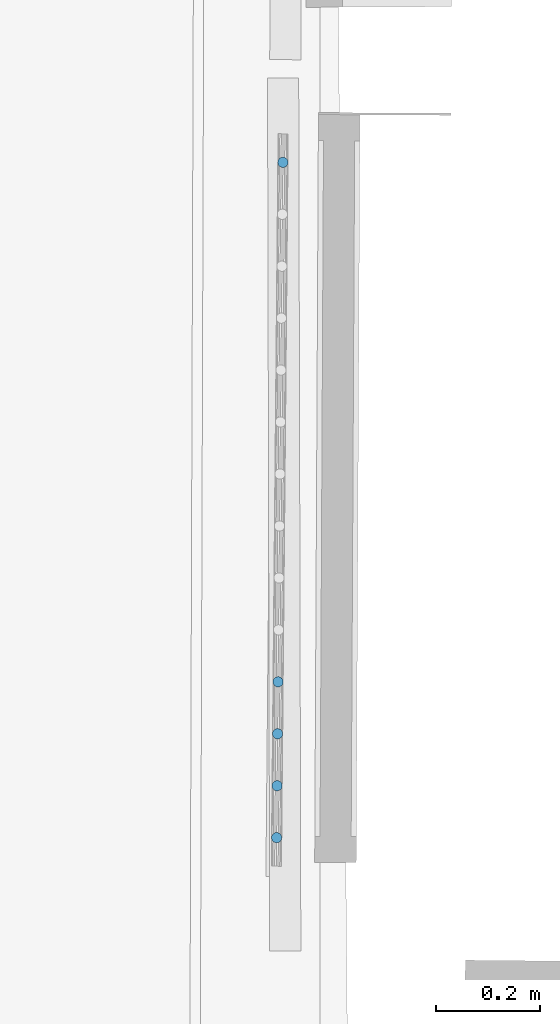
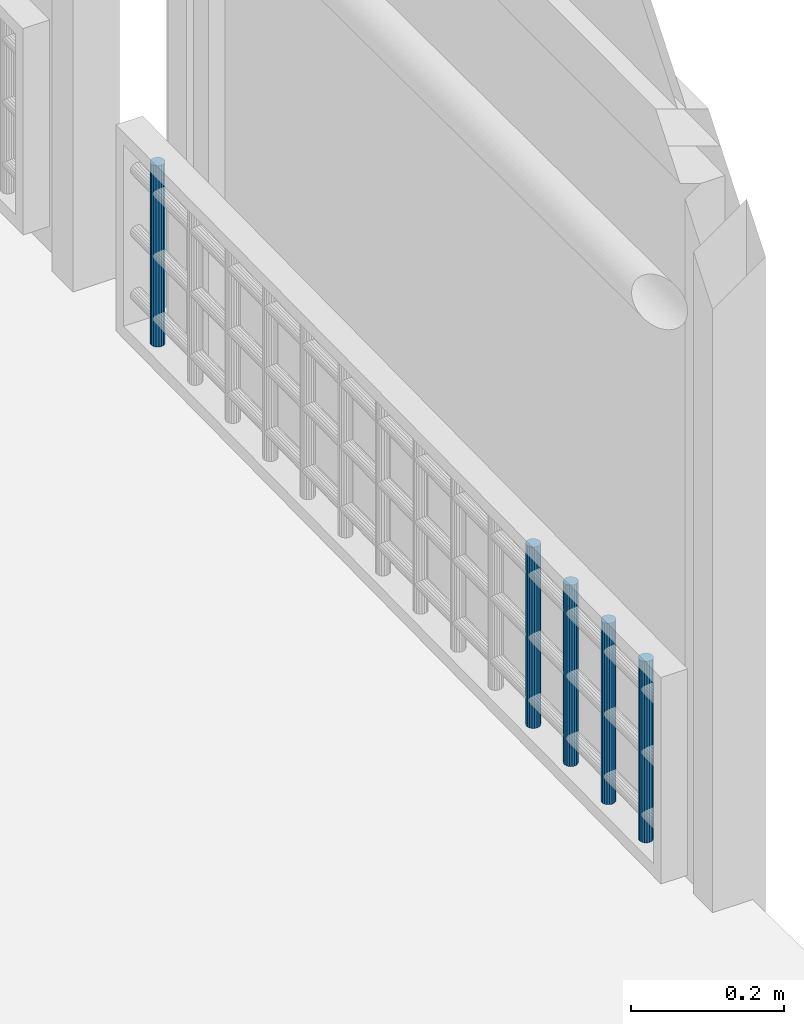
# One storey, part 33 of 72: 5 members, 1 element without a shape of its own.
"""IFC2X3 building model written with IfcOpenShell, lengths in centimetres."""

from ifc_helpers import new_model, entity, si_unit, converted_unit, direction, frame, origin, origin_with_axes, place, context, subcontext, project, spatial, faceted_brep, material, type_object, element, aggregate, save


model = new_model("IFC2X3")

# Units and contexts
model_context = context("Model", 3, precision=0.0001, world=origin(), true_north=direction((0.225632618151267, 0.974212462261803, 0.0)))
body_context = subcontext(model_context, "Body", "Model", "MODEL_VIEW")
ifc_project = project(units=[si_unit("LENGTHUNIT", "METRE", prefix="CENTI"), si_unit("AREAUNIT", "SQUARE_METRE", prefix="CENTI"), si_unit("VOLUMEUNIT", "CUBIC_METRE", prefix="CENTI"), converted_unit("PLANEANGLEUNIT", "DEGREE", entity("IfcRatioMeasure", 0.0174532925), si_unit("PLANEANGLEUNIT", "RADIAN"), dimensions=[0, 0, 0, 0, 0, 0, 0])], contexts=[model_context])

# Site, building, storey
site_placement = place(None, origin_with_axes())
site = spatial("IfcSite", under=ifc_project, at=site_placement, Name="Default Site", CompositionType="ELEMENT")
building_placement = place(site_placement, origin_with_axes())
building = spatial("IfcBuilding", under=site, at=building_placement, Name="Default Building", CompositionType="ELEMENT")
storey_placement = place(building_placement, frame((0.0, 0.0, 853.910374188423), z_axis=(0.0, 0.0, 1.0), x_axis=(1.0, 0.0, 0.0)))
storey = spatial("IfcBuildingStorey", under=building, at=storey_placement, Name="Niveau 2", CompositionType="ELEMENT", Elevation=853.910374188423)

# Assembly, members
building_element_proxy_type = type_object("IfcBuildingElementProxyType", Name="Type Object", PredefinedType="NOTDEFINED")
assembly_placement = place(storey_placement, frame((1064.66913892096, -34.4836063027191, 11.9999999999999), z_axis=(0.0, 0.0, 1.0), x_axis=(-0.00922380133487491, -0.999957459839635, 0.0)))
assembly = element("IfcElementAssembly", 1, at=assembly_placement, inside=storey, type_object=building_element_proxy_type, Name="Panneau 1702022", ObjectType="Precast panel", PredefinedType="USERDEFINED")
ifc_material = material(Name="Aluminium satiné")
member_1_placement = place(assembly_placement, frame((8.43969285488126, 0.342020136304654, 31.0000002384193), z_axis=(0.0, 0.0, 1.0), x_axis=(0.500000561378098, -0.866025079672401, 0.0)))
member_1 = element("IfcMember", 2, at=member_1_placement, material=ifc_material, Name="4294967169", context=body_context, shape_type="Brep", body=[
    faceted_brep([(2.17187379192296e-13, -1.76247905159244e-13, -1.72084568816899e-13), (-0.34729650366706, -2.17881268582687e-13, -1.72084568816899e-13), (-0.673648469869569, -0.118782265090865, -1.72084568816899e-13), (-0.939693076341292, -0.342019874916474, -1.72084568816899e-13), (-1.11334134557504, -0.642787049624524, -1.72084568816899e-13), (-1.17364892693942, -0.984807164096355, -1.72084568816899e-13), (-1.11334184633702, -1.3268274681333, -1.72084568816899e-13), (-0.939693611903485, -1.62759464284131, -1.72084568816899e-13), (-0.673649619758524, -1.85083312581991, -1.72084568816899e-13), (-0.347297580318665, -1.96961516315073, -1.72084568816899e-13), (-1.44918083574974e-06, -1.96961580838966, -1.72084568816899e-13), (0.326350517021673, -1.85083354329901, -1.72084568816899e-13), (0.592395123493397, -1.6275959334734, -1.72084568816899e-13), (0.766043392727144, -1.32682875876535, -1.72084568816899e-13), (0.826350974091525, -0.984808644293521, -1.72084568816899e-13), (0.76604389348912, -0.642788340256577, -1.72084568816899e-13), (0.592396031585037, -0.342020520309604, -1.72084568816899e-13), (0.326351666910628, -0.118782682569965, -1.72084568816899e-13), (0.326351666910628, -0.118782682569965, -29.0000002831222), (0.592396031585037, -0.342020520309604, -29.0000002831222), (0.76604389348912, -0.642788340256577, -29.0000002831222), (0.826350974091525, -0.984808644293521, -29.0000002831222), (0.766043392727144, -1.32682875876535, -29.0000002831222), (0.592395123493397, -1.6275959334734, -29.0000002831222), (0.326350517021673, -1.85083354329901, -29.0000002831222), (-1.44918083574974e-06, -1.96961580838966, -29.0000002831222), (-0.347297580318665, -1.96961516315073, -29.0000002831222), (-0.673649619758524, -1.85083312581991, -29.0000002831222), (-0.939693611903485, -1.62759464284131, -29.0000002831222), (-1.11334184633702, -1.3268274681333, -29.0000002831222), (-1.17364892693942, -0.984807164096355, -29.0000002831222), (-1.11334134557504, -0.642787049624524, -29.0000002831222), (-0.939693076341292, -0.342019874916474, -29.0000002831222), (-0.673648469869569, -0.118782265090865, -29.0000002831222), (-0.34729650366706, -2.17881268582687e-13, -29.0000002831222), (2.17187379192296e-13, -1.76247905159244e-13, -29.0000002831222), (0.59239593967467, -0.342020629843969, -1.72084568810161e-13), (0.592395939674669, -0.34202062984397, -29.0000002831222), (0.326351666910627, -0.118782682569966, -29.0000002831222), (0.766044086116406, -0.64278822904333, -1.72084568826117e-13), (0.766044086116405, -0.642788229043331, -29.0000002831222), (0.592396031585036, -0.342020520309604, -29.0000002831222), (0.826351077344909, -0.98480862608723, -1.72084568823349e-13), (0.826351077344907, -0.98480862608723, -29.0000002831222), (0.766043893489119, -0.642788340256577, -29.0000002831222), (0.76604337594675, -1.3268287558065, -1.72084568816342e-13), (0.76604337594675, -1.3268287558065, -29.0000002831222), (0.826350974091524, -0.984808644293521, -29.0000002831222), (0.326350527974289, -1.85083355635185, -1.72084568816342e-13), (0.32635052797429, -1.85083355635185, -29.0000002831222), (0.592395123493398, -1.6275959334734, -29.0000002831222), (-1.48504028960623e-06, -1.96961570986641, -1.72084568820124e-13), (-1.48504028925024e-06, -1.96961570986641, -29.0000002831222), (-0.347297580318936, -1.96961558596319, -1.72084568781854e-13), (-0.347297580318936, -1.96961558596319, -29.0000002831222), (-0.673649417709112, -1.85083257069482, -1.7208456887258e-13), (-0.673649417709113, -1.85083257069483, -29.0000002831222), (-0.347297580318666, -1.96961516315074, -29.0000002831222), (-0.939693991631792, -1.62759509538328, -1.72084568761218e-13), (-0.939693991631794, -1.62759509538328, -29.0000002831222), (-0.673649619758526, -1.85083312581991, -29.0000002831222), (-1.11334148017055, -1.32682725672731, -1.72084568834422e-13), (-1.11334148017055, -1.32682725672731, -29.0000002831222), (-0.939693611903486, -1.62759464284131, -29.0000002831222), (-1.1736490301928, -0.984807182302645, -1.72084568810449e-13), (-1.17364903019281, -0.984807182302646, -29.0000002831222), (-1.11334132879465, -0.642787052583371, -1.72084568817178e-13), (-1.11334132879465, -0.642787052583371, -29.0000002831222), (-1.17364892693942, -0.984807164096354, -29.0000002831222), (-0.939693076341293, -0.342019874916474, -1.72084568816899e-13), (-0.939693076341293, -0.342019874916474, -29.0000002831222), (-0.673648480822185, -0.118782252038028, -1.72084568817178e-13), (-0.673648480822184, -0.118782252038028, -29.0000002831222), (-0.939693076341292, -0.342019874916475, -29.0000002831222), (-0.347296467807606, -9.85234630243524e-08, -1.72084568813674e-13), (-0.347296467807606, -9.85234638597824e-08, -29.0000002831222), (-0.673648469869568, -0.118782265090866, -29.0000002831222), (7.4733746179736e-14, -2.22426923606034e-07, -1.72084568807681e-13), (7.47337454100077e-14, -2.22426924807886e-07, -29.0000002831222), (-0.34729650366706, -2.19083120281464e-13, -29.0000002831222), (0.326351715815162, -0.118782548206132, -1.72084568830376e-13), (0.326351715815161, -0.118782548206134, -29.0000002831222), (2.16252502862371e-13, -1.78816451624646e-13, -29.0000002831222)], [[[0, 1, 2, 3, 4, 5, 6, 7, 8, 9, 10, 11, 12, 13, 14, 15, 16, 17]], [[18, 19, 20, 21, 22, 23, 24, 25, 26, 27, 28, 29, 30, 31, 32, 33, 34, 35]], [[17, 36, 37, 38]], [[16, 39, 40, 41]], [[15, 42, 43, 44]], [[14, 45, 46, 47]], [[13, 12, 23, 22]], [[12, 48, 49, 50]], [[11, 51, 52, 24]], [[10, 53, 54, 25]], [[9, 55, 56, 57]], [[8, 58, 59, 60]], [[7, 61, 62, 63]], [[6, 64, 65, 29]], [[5, 66, 67, 68]], [[4, 69, 70, 31]], [[3, 71, 72, 73]], [[2, 74, 75, 76]], [[1, 77, 78, 79]], [[0, 80, 81, 82]]]),
])
member_2_placement = place(assembly_placement, frame((108.439695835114, 0.342020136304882, 31.0000002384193), z_axis=(0.0, 0.0, 1.0), x_axis=(0.500008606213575, -0.866020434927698, 0.0)))
member_2 = element("IfcMember", 3, at=member_2_placement, material=ifc_material, Name="4294967159", context=body_context, shape_type="Brep", body=[
    faceted_brep([(4.55191440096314e-13, -2.77555756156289e-13, -1.72084568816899e-13), (-0.347298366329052, -2.33146835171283e-13, -1.72084568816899e-13), (-0.673648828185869, -0.118774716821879, -1.72084568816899e-13), (-0.939699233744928, -0.342016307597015, -1.72084568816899e-13), (-1.11334843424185, -0.642778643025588, -1.72084568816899e-13), (-1.17365695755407, -0.984794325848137, -1.72084568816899e-13), (-1.1133564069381, -1.32682099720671, -1.72084568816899e-13), (-0.939713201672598, -1.62759365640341, -1.72084568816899e-13), (-0.673665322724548, -1.85082428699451, -1.72084568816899e-13), (-0.347320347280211, -1.9696196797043, -1.72084568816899e-13), (-2.1980950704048e-05, -1.96961967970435, -1.72084568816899e-13), (0.326334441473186, -1.85083463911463, -1.72084568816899e-13), (0.592378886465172, -1.62760337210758, -1.72084568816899e-13), (0.766028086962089, -1.32684103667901, -1.72084568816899e-13), (0.826342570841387, -0.984815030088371, -1.72084568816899e-13), (0.766036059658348, -0.642798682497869, -1.72084568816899e-13), (0.592392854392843, -0.342026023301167, -1.72084568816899e-13), (0.326350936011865, -0.118785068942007, -1.72084568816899e-13), (0.326350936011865, -0.118785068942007, -29.0000002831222), (0.592392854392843, -0.342026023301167, -29.0000002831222), (0.766036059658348, -0.642798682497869, -29.0000002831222), (0.826342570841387, -0.984815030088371, -29.0000002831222), (0.766028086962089, -1.32684103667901, -29.0000002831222), (0.592378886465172, -1.62760337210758, -29.0000002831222), (0.326334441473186, -1.85083463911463, -29.0000002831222), (-2.1980950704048e-05, -1.96961967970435, -29.0000002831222), (-0.347320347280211, -1.9696196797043, -29.0000002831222), (-0.673665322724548, -1.85082428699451, -29.0000002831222), (-0.939713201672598, -1.62759365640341, -29.0000002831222), (-1.1133564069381, -1.32682099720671, -29.0000002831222), (-1.17365695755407, -0.984794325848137, -29.0000002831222), (-1.11334843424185, -0.642778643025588, -29.0000002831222), (-0.939699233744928, -0.342016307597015, -29.0000002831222), (-0.673648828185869, -0.118774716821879, -29.0000002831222), (-0.347298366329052, -2.33146835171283e-13, -29.0000002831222), (4.55191440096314e-13, -2.77555756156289e-13, -29.0000002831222), (0.59239323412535, -0.342025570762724, -1.72084568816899e-13), (0.59239323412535, -0.342025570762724, -29.0000002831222), (0.766039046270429, -0.642796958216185, -1.72084568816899e-13), (0.766039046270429, -0.642796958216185, -29.0000002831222), (0.826339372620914, -0.984815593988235, -1.72084568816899e-13), (0.826339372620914, -0.984815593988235, -29.0000002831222), (0.766030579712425, -1.32684147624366, -1.72084568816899e-13), (0.766030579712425, -1.32684147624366, -29.0000002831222), (0.592378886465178, -1.62760337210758, -1.72084568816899e-13), (0.592378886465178, -1.62760337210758, -29.0000002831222), (0.326335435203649, -1.85083582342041, -1.72084568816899e-13), (0.326335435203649, -1.85083582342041, -29.0000002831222), (-2.34909533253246e-05, -1.96961553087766, -1.72084568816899e-13), (-2.34909533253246e-05, -1.96961553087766, -29.0000002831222), (-0.347320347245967, -1.96961623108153, -1.72084568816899e-13), (-0.347320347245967, -1.96961623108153, -29.0000002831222), (-0.673669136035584, -1.8508347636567, -1.72084568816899e-13), (-0.673669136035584, -1.8508347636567, -29.0000002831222), (-0.939706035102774, -1.62758511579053, -1.72084568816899e-13), (-0.939706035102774, -1.62758511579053, -29.0000002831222), (-1.11335939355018, -1.3268227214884, -1.72084568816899e-13), (-1.11335939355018, -1.3268227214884, -29.0000002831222), (-1.17366130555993, -0.984795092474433, -1.72084568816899e-13), (-1.17366130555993, -0.984795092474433, -29.0000002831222), (-1.11334691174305, -0.642778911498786, -1.72084568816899e-13), (-1.11334691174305, -0.642778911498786, -29.0000002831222), (-0.939699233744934, -0.342016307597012, -1.72084568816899e-13), (-0.939699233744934, -0.342016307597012, -29.0000002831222), (-0.673647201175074, -0.118776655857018, -1.72084568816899e-13), (-0.673647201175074, -0.118776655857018, -29.0000002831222), (-0.347299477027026, 3.05171194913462e-06, -1.72084568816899e-13), (-0.347299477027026, 3.05171194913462e-06, -29.0000002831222), (-3.37891365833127e-11, -3.4486230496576e-06, -1.72084568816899e-13), (-3.37891365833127e-11, -3.4486230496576e-06, -29.0000002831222), (0.326350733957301, -0.118785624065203, -1.72084568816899e-13), (0.326350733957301, -0.118785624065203, -29.0000002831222)], [[[0, 1, 2, 3, 4, 5, 6, 7, 8, 9, 10, 11, 12, 13, 14, 15, 16, 17]], [[18, 19, 20, 21, 22, 23, 24, 25, 26, 27, 28, 29, 30, 31, 32, 33, 34, 35]], [[17, 36, 37, 18]], [[16, 38, 39, 19]], [[15, 40, 41, 20]], [[14, 42, 43, 21]], [[13, 44, 45, 22]], [[12, 46, 47, 23]], [[11, 48, 49, 24]], [[10, 50, 51, 25]], [[9, 52, 53, 26]], [[8, 54, 55, 27]], [[7, 56, 57, 28]], [[6, 58, 59, 29]], [[5, 60, 61, 30]], [[4, 62, 63, 31]], [[3, 64, 65, 32]], [[2, 66, 67, 33]], [[1, 68, 69, 34]], [[0, 70, 71, 35]]]),
])
member_3_placement = place(assembly_placement, frame((118.439698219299, 0.342020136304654, 31.0000002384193), z_axis=(0.0, 0.0, 1.0), x_axis=(0.500008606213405, -0.866020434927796, 0.0)))
member_3 = element("IfcMember", 4, at=member_3_placement, material=ifc_material, Name="4294967158", context=body_context, shape_type="Brep", body=[
    faceted_brep([(4.77395900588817e-13, -2.66453525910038e-13, -1.83186799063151e-13), (-0.34729836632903, -3.10862446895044e-13, -1.83186799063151e-13), (-0.673654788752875, -0.118785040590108, -1.83186799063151e-13), (-0.939699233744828, -0.342016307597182, -1.83186799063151e-13), (-1.11334843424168, -0.642778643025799, -1.83186799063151e-13), (-1.17366291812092, -0.984804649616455, -1.83186799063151e-13), (-1.11335640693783, -1.32682099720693, -1.83186799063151e-13), (-0.939713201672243, -1.62759365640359, -1.83186799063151e-13), (-0.673671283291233, -1.85083461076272, -1.83186799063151e-13), (-0.347320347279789, -1.96961967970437, -1.83186799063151e-13), (-2.19809502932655e-05, -1.96961967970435, -1.83186799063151e-13), (0.32632848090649, -1.85084496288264, -1.83186799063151e-13), (0.592378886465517, -1.62760337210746, -1.83186799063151e-13), (0.766028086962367, -1.32684103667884, -1.83186799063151e-13), (0.826336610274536, -0.984825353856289, -1.83186799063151e-13), (0.766036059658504, -0.642798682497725, -1.83186799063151e-13), (0.592392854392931, -0.342026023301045, -1.83186799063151e-13), (0.326344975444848, -0.118795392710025, -1.83186799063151e-13), (0.326344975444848, -0.118795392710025, -29.0000002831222), (0.592392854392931, -0.342026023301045, -29.0000002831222), (0.766036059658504, -0.642798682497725, -29.0000002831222), (0.826336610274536, -0.984825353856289, -29.0000002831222), (0.766028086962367, -1.32684103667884, -29.0000002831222), (0.592378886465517, -1.62760337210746, -29.0000002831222), (0.32632848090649, -1.85084496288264, -29.0000002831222), (-2.19809502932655e-05, -1.96961967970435, -29.0000002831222), (-0.347320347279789, -1.96961967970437, -29.0000002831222), (-0.673671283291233, -1.85083461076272, -29.0000002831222), (-0.939713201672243, -1.62759365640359, -29.0000002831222), (-1.11335640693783, -1.32682099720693, -29.0000002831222), (-1.17366291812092, -0.984804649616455, -29.0000002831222), (-1.11334843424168, -0.642778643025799, -29.0000002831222), (-0.939699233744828, -0.342016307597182, -29.0000002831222), (-0.673654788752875, -0.118785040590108, -29.0000002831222), (-0.34729836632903, -3.10862446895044e-13, -29.0000002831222), (4.77395900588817e-13, -2.66453525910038e-13, -29.0000002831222), (0.592385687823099, -0.342034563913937, -1.83186799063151e-13), (0.592385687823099, -0.342034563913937, -29.0000002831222), (0.766039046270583, -0.642796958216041, -1.83186799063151e-13), (0.766039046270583, -0.642796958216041, -29.0000002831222), (0.826340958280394, -0.984824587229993, -1.83186799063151e-13), (0.826340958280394, -0.984824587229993, -29.0000002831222), (0.766026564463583, -1.32684076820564, -1.83186799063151e-13), (0.766026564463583, -1.32684076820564, -29.0000002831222), (0.592378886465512, -1.62760337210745, -1.83186799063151e-13), (0.592378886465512, -1.62760337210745, -29.0000002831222), (0.326326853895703, -1.85084302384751, -1.83186799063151e-13), (0.326326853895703, -1.85084302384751, -29.0000002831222), (-2.08702523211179e-05, -1.96962273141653, -1.83186799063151e-13), (-2.08702523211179e-05, -1.96962273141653, -29.0000002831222), (-0.347320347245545, -1.9696162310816, -1.83186799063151e-13), (-0.347320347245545, -1.9696162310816, -29.0000002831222), (-0.673671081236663, -1.85083405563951, -1.83186799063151e-13), (-0.673671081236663, -1.85083405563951, -29.0000002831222), (-0.939713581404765, -1.62759410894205, -1.83186799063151e-13), (-0.939713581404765, -1.62759410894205, -29.0000002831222), (-1.11335939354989, -1.32682272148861, -1.83186799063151e-13), (-1.11335939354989, -1.32682272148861, -29.0000002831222), (-1.17365971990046, -0.984804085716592, -1.83186799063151e-13), (-1.17365971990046, -0.984804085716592, -29.0000002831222), (-1.11335092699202, -0.642778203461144, -1.83186799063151e-13), (-1.11335092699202, -0.642778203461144, -29.0000002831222), (-0.939699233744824, -0.342016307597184, -1.83186799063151e-13), (-0.939699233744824, -0.342016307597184, -29.0000002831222), (-0.673655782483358, -0.118783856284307, -1.83186799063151e-13), (-0.673655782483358, -0.118783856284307, -29.0000002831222), (-0.347296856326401, -4.14882701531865e-06, -1.83186799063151e-13), (-0.347296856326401, -4.14882701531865e-06, -29.0000002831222), (-3.37669316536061e-11, -3.44862305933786e-06, -1.83186799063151e-13), (-3.37669316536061e-11, -3.44862305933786e-06, -29.0000002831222), (0.326348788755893, -0.118784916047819, -1.83186799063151e-13), (0.326348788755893, -0.118784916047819, -29.0000002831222)], [[[0, 1, 2, 3, 4, 5, 6, 7, 8, 9, 10, 11, 12, 13, 14, 15, 16, 17]], [[18, 19, 20, 21, 22, 23, 24, 25, 26, 27, 28, 29, 30, 31, 32, 33, 34, 35]], [[17, 36, 37, 18]], [[16, 38, 39, 19]], [[15, 40, 41, 20]], [[14, 42, 43, 21]], [[13, 44, 45, 22]], [[12, 46, 47, 23]], [[11, 48, 49, 24]], [[10, 50, 51, 25]], [[9, 52, 53, 26]], [[8, 54, 55, 27]], [[7, 56, 57, 28]], [[6, 58, 59, 29]], [[5, 60, 61, 30]], [[4, 62, 63, 31]], [[3, 64, 65, 32]], [[2, 66, 67, 33]], [[1, 68, 69, 34]], [[0, 70, 71, 35]]]),
])
member_4_placement = place(assembly_placement, frame((128.439688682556, 0.342020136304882, 31.0000002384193), z_axis=(0.0, 0.0, 1.0), x_axis=(0.499982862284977, -0.866035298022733, 0.0)))
member_4 = element("IfcMember", 5, at=member_4_placement, material=ifc_material, Name="4294967157", context=body_context, shape_type="Brep", body=[
    faceted_brep([(2.77555756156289e-13, -1.77635683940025e-13, -1.72084568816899e-13), (-0.3472924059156, -1.99840144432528e-13, -1.72084568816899e-13), (-0.67364529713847, -0.118794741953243, -1.72084568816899e-13), (-0.93968310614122, -0.342033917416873, -1.72084568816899e-13), (-1.11332336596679, -0.642801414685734, -1.72084568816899e-13), (-1.17362768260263, -0.984829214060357, -1.72084568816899e-13), (-1.11331100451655, -1.32684376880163, -1.72084568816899e-13), (-0.939658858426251, -1.62761126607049, -1.72084568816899e-13), (-0.673610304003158, -1.85084431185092, -1.72084568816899e-13), (-0.347255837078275, -1.96961967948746, -1.72084568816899e-13), (4.25290977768e-05, -1.96960935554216, -1.72084568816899e-13), (0.326389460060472, -1.85082493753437, -1.72084568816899e-13), (0.592433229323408, -1.62757543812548, -1.72084568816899e-13), (0.766073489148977, -1.32680794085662, -1.72084568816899e-13), (0.826371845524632, -0.984790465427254, -1.72084568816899e-13), (0.766061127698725, -0.642765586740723, -1.72084568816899e-13), (0.592403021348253, -0.342008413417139, -1.72084568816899e-13), (0.326354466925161, -0.118775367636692, -1.72084568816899e-13), (0.326354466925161, -0.118775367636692, -29.0000002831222), (0.592403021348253, -0.342008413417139, -29.0000002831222), (0.766061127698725, -0.642765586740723, -29.0000002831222), (0.826371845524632, -0.984790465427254, -29.0000002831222), (0.766073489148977, -1.32680794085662, -29.0000002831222), (0.592433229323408, -1.62757543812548, -29.0000002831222), (0.326389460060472, -1.85082493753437, -29.0000002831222), (4.25290977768e-05, -1.96960935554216, -29.0000002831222), (-0.347255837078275, -1.96961967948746, -29.0000002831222), (-0.673610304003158, -1.85084431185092, -29.0000002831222), (-0.939658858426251, -1.62761126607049, -29.0000002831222), (-1.11331100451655, -1.32684376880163, -29.0000002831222), (-1.17362768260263, -0.984829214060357, -29.0000002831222), (-1.11332336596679, -0.642801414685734, -29.0000002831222), (-0.93968310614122, -0.342033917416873, -29.0000002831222), (-0.67364529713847, -0.118794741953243, -29.0000002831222), (-0.3472924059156, -1.99840144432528e-13, -29.0000002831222), (2.77555756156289e-13, -1.77635683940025e-13, -29.0000002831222), (0.592403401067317, -0.342007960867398, -1.72084568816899e-13), (0.592403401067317, -0.342007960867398, -29.0000002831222), (0.766055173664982, -0.642769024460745, -1.72084568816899e-13), (0.766055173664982, -0.642769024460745, -29.0000002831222), (0.826376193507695, -0.984789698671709, -1.72084568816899e-13), (0.826376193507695, -0.984789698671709, -29.0000002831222), (0.766071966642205, -1.32680767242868, -1.72084568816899e-13), (0.766071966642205, -1.32680767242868, -29.0000002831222), (0.592433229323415, -1.62757543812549, -1.72084568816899e-13), (0.592433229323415, -1.62757543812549, -29.0000002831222), (0.326387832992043, -1.8508229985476, -1.72084568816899e-13), (0.326387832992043, -1.8508229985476, -29.0000002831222), (4.36398864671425e-05, -1.96961240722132, -1.72084568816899e-13), (4.36398864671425e-05, -1.96961240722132, -29.0000002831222), (-0.347255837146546, -1.96961623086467, -1.72084568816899e-13), (-0.347255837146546, -1.96961623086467, -29.0000002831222), (-0.673610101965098, -1.85084375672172, -1.72084568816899e-13), (-0.673610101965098, -1.85084375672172, -29.0000002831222), (-0.939659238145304, -1.62761171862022, -1.72084568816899e-13), (-0.939659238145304, -1.62761171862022, -29.0000002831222), (-1.11331399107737, -1.3268454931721, -1.72084568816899e-13), (-1.11331399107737, -1.3268454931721, -29.0000002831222), (-1.17362448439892, -0.984828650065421, -1.72084568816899e-13), (-1.17362448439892, -0.984828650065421, -29.0000002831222), (-1.1133258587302, -0.64280097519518, -1.72084568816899e-13), (-1.1133258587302, -0.64280097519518, -29.0000002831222), (-0.939683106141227, -0.342033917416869, -1.72084568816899e-13), (-0.939683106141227, -0.342033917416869, -29.0000002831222), (-0.673646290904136, -0.118793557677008, -1.72084568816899e-13), (-0.673646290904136, -0.118793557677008, -29.0000002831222), (-0.347290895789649, -4.14878199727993e-06, -1.72084568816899e-13), (-0.347290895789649, -4.14878199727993e-06, -29.0000002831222), (-1.35828031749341e-10, 6.8752043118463e-06, -1.72084568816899e-13), (-1.35828031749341e-10, 6.8752043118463e-06, -29.0000002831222), (0.326354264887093, -0.118775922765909, -1.72084568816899e-13), (0.326354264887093, -0.118775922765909, -29.0000002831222)], [[[0, 1, 2, 3, 4, 5, 6, 7, 8, 9, 10, 11, 12, 13, 14, 15, 16, 17]], [[18, 19, 20, 21, 22, 23, 24, 25, 26, 27, 28, 29, 30, 31, 32, 33, 34, 35]], [[17, 36, 37, 18]], [[16, 38, 39, 19]], [[15, 40, 41, 20]], [[14, 42, 43, 21]], [[13, 44, 45, 22]], [[12, 46, 47, 23]], [[11, 48, 49, 24]], [[10, 50, 51, 25]], [[9, 52, 53, 26]], [[8, 54, 55, 27]], [[7, 56, 57, 28]], [[6, 58, 59, 29]], [[5, 60, 61, 30]], [[4, 62, 63, 31]], [[3, 64, 65, 32]], [[2, 66, 67, 33]], [[1, 68, 69, 34]], [[0, 70, 71, 35]]]),
])
member_5_placement = place(assembly_placement, frame((138.439691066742, 0.342020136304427, 31.0000002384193), z_axis=(0.0, 0.0, 1.0), x_axis=(0.500008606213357, -0.866020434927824, 0.0)))
member_5 = element("IfcMember", 6, at=member_5_placement, material=ifc_material, Name="4294967156", context=body_context, shape_type="Brep", body=[
    faceted_brep([(-8.88178419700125e-14, -1.11022302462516e-13, -1.83186799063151e-13), (-0.347298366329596, -1.55431223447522e-13, -1.83186799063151e-13), (-0.67364882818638, -0.11877471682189, -1.83186799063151e-13), (-0.93969327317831, -0.342005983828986, -1.83186799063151e-13), (-1.11334843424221, -0.642778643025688, -1.83186799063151e-13), (-1.17365695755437, -0.984794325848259, -1.83186799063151e-13), (-1.11335044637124, -1.32681067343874, -1.83186799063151e-13), (-0.939707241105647, -1.62758333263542, -1.83186799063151e-13), (-0.673665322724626, -1.8508242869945, -1.83186799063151e-13), (-0.347314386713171, -1.96960935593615, -1.83186799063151e-13), (-1.6020383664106e-05, -1.96960935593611, -1.83186799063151e-13), (0.326334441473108, -1.85083463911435, -1.83186799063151e-13), (0.59237888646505, -1.62760337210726, -1.83186799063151e-13), (0.766034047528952, -1.32683071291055, -1.83186799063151e-13), (0.826342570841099, -0.984815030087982, -1.83186799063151e-13), (0.766036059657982, -0.642798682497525, -1.83186799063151e-13), (0.592392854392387, -0.342026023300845, -1.83186799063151e-13), (0.326350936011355, -0.11878506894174, -1.83186799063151e-13), (0.326350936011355, -0.11878506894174, -29.0000002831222), (0.592392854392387, -0.342026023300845, -29.0000002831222), (0.766036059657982, -0.642798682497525, -29.0000002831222), (0.826342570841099, -0.984815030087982, -29.0000002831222), (0.766034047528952, -1.32683071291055, -29.0000002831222), (0.59237888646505, -1.62760337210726, -29.0000002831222), (0.326334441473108, -1.85083463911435, -29.0000002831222), (-1.6020383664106e-05, -1.96960935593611, -29.0000002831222), (-0.347314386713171, -1.96960935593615, -29.0000002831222), (-0.673665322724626, -1.8508242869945, -29.0000002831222), (-0.939707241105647, -1.62758333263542, -29.0000002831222), (-1.11335044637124, -1.32681067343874, -29.0000002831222), (-1.17365695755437, -0.984794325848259, -29.0000002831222), (-1.11334843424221, -0.642778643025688, -29.0000002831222), (-0.93969327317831, -0.342005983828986, -29.0000002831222), (-0.67364882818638, -0.11877471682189, -29.0000002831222), (-0.347298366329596, -1.55431223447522e-13, -29.0000002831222), (-8.88178419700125e-14, -1.11022302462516e-13, -29.0000002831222), (0.592393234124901, -0.342025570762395, -1.83186799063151e-13), (0.592393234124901, -0.342025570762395, -29.0000002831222), (0.766039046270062, -0.642796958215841, -1.83186799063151e-13), (0.766039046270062, -0.642796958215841, -29.0000002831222), (0.826339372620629, -0.984815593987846, -1.83186799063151e-13), (0.826339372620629, -0.984815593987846, -29.0000002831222), (0.766032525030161, -1.32683044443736, -1.83186799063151e-13), (0.766032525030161, -1.32683044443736, -29.0000002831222), (0.592378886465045, -1.62760337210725, -1.83186799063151e-13), (0.592378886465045, -1.62760337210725, -29.0000002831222), (0.326335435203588, -1.85083582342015, -1.83186799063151e-13), (0.326335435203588, -1.85083582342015, -29.0000002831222), (-1.49096857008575e-05, -1.96961240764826, -1.83186799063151e-13), (-1.49096857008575e-05, -1.96961240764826, -29.0000002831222), (-0.347314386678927, -1.96960590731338, -1.83186799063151e-13), (-0.347314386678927, -1.96960590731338, -29.0000002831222), (-0.673665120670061, -1.8508237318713, -1.83186799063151e-13), (-0.673665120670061, -1.8508237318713, -29.0000002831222), (-0.939707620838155, -1.62758378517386, -1.83186799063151e-13), (-0.939707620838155, -1.62758378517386, -29.0000002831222), (-1.11335343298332, -1.32681239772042, -1.83186799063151e-13), (-1.11335343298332, -1.32681239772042, -29.0000002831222), (-1.17365375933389, -0.984793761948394, -1.83186799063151e-13), (-1.17365375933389, -0.984793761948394, -29.0000002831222), (-1.11334691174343, -0.642778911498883, -1.83186799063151e-13), (-1.11334691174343, -0.642778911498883, -29.0000002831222), (-0.939693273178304, -0.342005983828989, -1.83186799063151e-13), (-0.939693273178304, -0.342005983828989, -29.0000002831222), (-0.673649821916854, -0.118773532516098, -1.83186799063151e-13), (-0.673649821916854, -0.118773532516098, -29.0000002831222), (-0.347299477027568, 3.05171201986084e-06, -1.83186799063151e-13), (-0.347299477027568, 3.05171201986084e-06, -29.0000002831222), (-3.43331450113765e-11, -3.44862288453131e-06, -1.83186799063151e-13), (-3.43331450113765e-11, -3.44862288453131e-06, -29.0000002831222), (0.326350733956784, -0.118785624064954, -1.83186799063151e-13), (0.326350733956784, -0.118785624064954, -29.0000002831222)], [[[0, 1, 2, 3, 4, 5, 6, 7, 8, 9, 10, 11, 12, 13, 14, 15, 16, 17]], [[18, 19, 20, 21, 22, 23, 24, 25, 26, 27, 28, 29, 30, 31, 32, 33, 34, 35]], [[17, 36, 37, 18]], [[16, 38, 39, 19]], [[15, 40, 41, 20]], [[14, 42, 43, 21]], [[13, 44, 45, 22]], [[12, 46, 47, 23]], [[11, 48, 49, 24]], [[10, 50, 51, 25]], [[9, 52, 53, 26]], [[8, 54, 55, 27]], [[7, 56, 57, 28]], [[6, 58, 59, 29]], [[5, 60, 61, 30]], [[4, 62, 63, 31]], [[3, 64, 65, 32]], [[2, 66, 67, 33]], [[1, 68, 69, 34]], [[0, 70, 71, 35]]]),
])
aggregate(assembly, [member_1, member_2, member_3, member_4, member_5])

save(model, "model.ifc")
